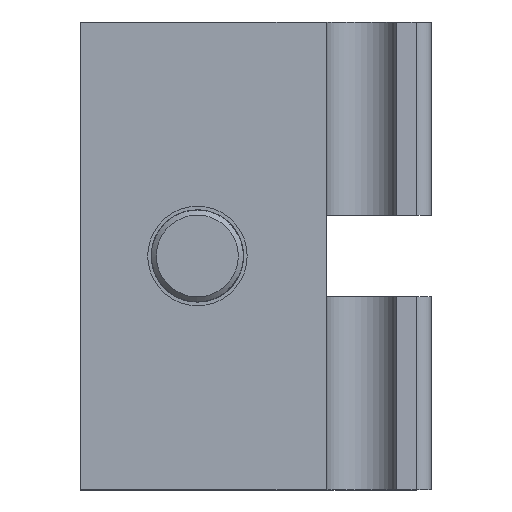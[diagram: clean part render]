
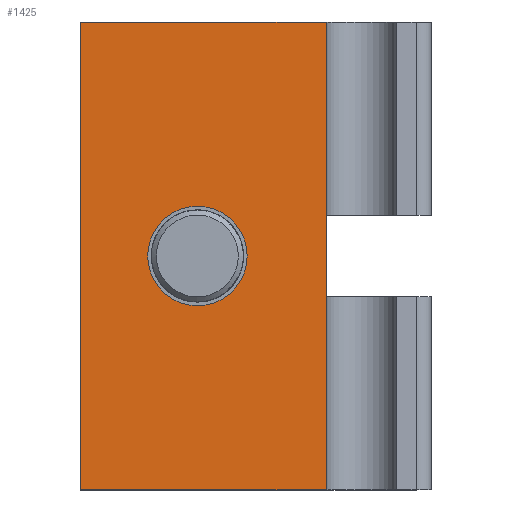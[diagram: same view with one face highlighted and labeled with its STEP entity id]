
A CAD part, left-side view. The second image highlights one B-rep face of the part: STEP entity #1425.
In plain terms, the highlighted planar face has unit normal (-1, 0, 0).
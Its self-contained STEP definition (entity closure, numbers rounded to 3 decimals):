
#20=FACE_BOUND('',#222,.T.);
#56=PLANE('',#1550);
#138=FACE_OUTER_BOUND('',#221,.T.);
#221=EDGE_LOOP('',(#1260,#1261,#1262,#1263));
#222=EDGE_LOOP('',(#1264));
#237=CIRCLE('',#1518,4.25);
#409=LINE('',#4285,#519);
#422=LINE('',#4316,#532);
#423=LINE('',#4318,#533);
#424=LINE('',#4319,#534);
#519=VECTOR('',#1843,10.);
#532=VECTOR('',#1876,10.);
#533=VECTOR('',#1879,10.);
#534=VECTOR('',#1880,10.);
#629=VERTEX_POINT('',#4205);
#657=VERTEX_POINT('',#4282);
#658=VERTEX_POINT('',#4284);
#665=VERTEX_POINT('',#4312);
#666=VERTEX_POINT('',#4314);
#815=EDGE_CURVE('',#629,#629,#237,.T.);
#854=EDGE_CURVE('',#657,#658,#409,.T.);
#870=EDGE_CURVE('',#665,#666,#422,.T.);
#871=EDGE_CURVE('',#665,#657,#423,.T.);
#872=EDGE_CURVE('',#658,#666,#424,.T.);
#1260=ORIENTED_EDGE('',*,*,#871,.F.);
#1261=ORIENTED_EDGE('',*,*,#870,.T.);
#1262=ORIENTED_EDGE('',*,*,#872,.F.);
#1263=ORIENTED_EDGE('',*,*,#854,.F.);
#1264=ORIENTED_EDGE('',*,*,#815,.T.);
#1425=ADVANCED_FACE('',(#138,#20),#56,.T.);
#1518=AXIS2_PLACEMENT_3D('',#4206,#1771,#1772);
#1550=AXIS2_PLACEMENT_3D('',#4317,#1877,#1878);
#1771=DIRECTION('center_axis',(1.,0.,0.));
#1772=DIRECTION('ref_axis',(0.,-1.,0.));
#1843=DIRECTION('',(0.,0.,1.));
#1876=DIRECTION('',(0.,0.,1.));
#1877=DIRECTION('center_axis',(-1.,0.,0.));
#1878=DIRECTION('ref_axis',(0.,-1.,0.));
#1879=DIRECTION('',(0.,1.,0.));
#1880=DIRECTION('',(0.,-1.,0.));
#4205=CARTESIAN_POINT('',(2.177,9.25,40.));
#4206=CARTESIAN_POINT('Origin',(2.177,5.,40.));
#4282=CARTESIAN_POINT('',(2.177,15.,20.));
#4284=CARTESIAN_POINT('',(2.177,15.,60.));
#4285=CARTESIAN_POINT('',(2.177,15.,20.));
#4312=CARTESIAN_POINT('',(2.177,-6.,20.));
#4314=CARTESIAN_POINT('',(2.177,-6.,60.));
#4316=CARTESIAN_POINT('',(2.177,-6.,20.));
#4317=CARTESIAN_POINT('Origin',(2.177,15.,20.));
#4318=CARTESIAN_POINT('',(2.177,-6.,20.));
#4319=CARTESIAN_POINT('',(2.177,-6.,60.));
